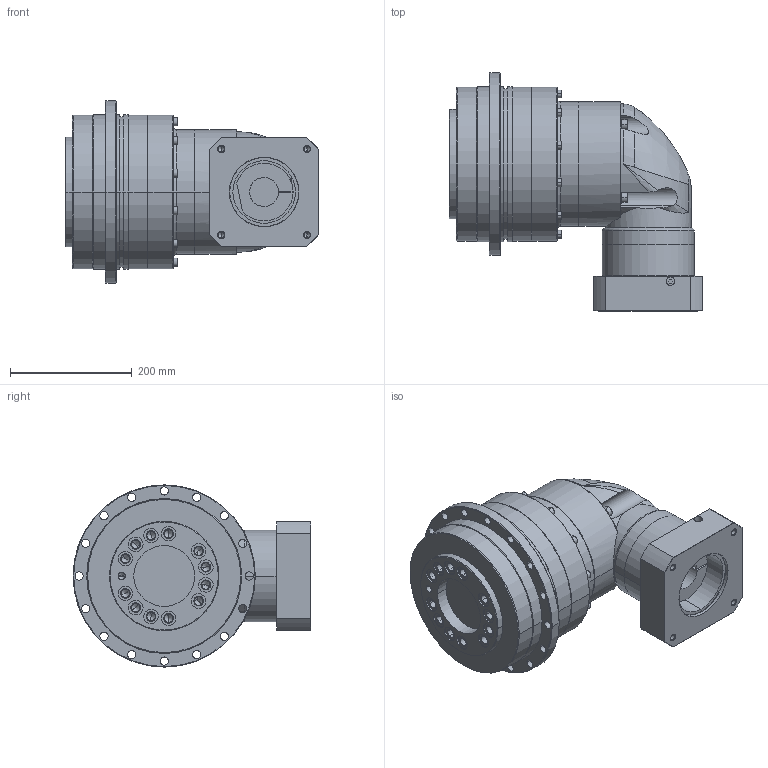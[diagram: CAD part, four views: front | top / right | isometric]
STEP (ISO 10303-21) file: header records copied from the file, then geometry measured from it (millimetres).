
FILE_DESCRIPTION((''),'2;1');
FILE_NAME('ADR2552-P4160201_ASM','2006-04-21T',('D00036'),(''),'PRO/ENGINEER BY PARAMETRIC TECHNOLOGY CORPORATION, 2001280','PRO/ENGINEER BY PARAMETRIC TECHNOLOGY CORPORATION, 2001280','');
FILE_SCHEMA(('CONFIG_CONTROL_DESIGN'));
Length unit declared in the file: millimetre
Products named in the file (11): AD255-2; PH270001; 220120813; AH_RING_GEAR-SET2-7_ASM; PD160001; 233100006; 220100916; HOUSING-SET-6_ASM; PK860001; P4160201; ADR2552-P4160201_ASM
Assembly tree (27 placements, depth 3):
  ADR2552-P4160201_ASM
    AD255-2
    AH_RING_GEAR-SET2-7_ASM
      PH270001
      220120813  x12
    HOUSING-SET-6_ASM
      PD160001
      233100006  x4
      220100916  x4
    PK860001
    P4160201
Bounding box: 417.5 x 391.5 x 300 mm (x, y, z)
Volume: 16771114.7 mm3; surface area: 950463.5 mm2
Topology: 25 solids, 69 shells, 1184 faces, 2686 edges, 1613 vertices
Faces by surface type: cylinder 520, plane 379, cone 210, torus 57, bspline 18
Entity records: 22048 total; most frequent: CARTESIAN_POINT 4686, DIRECTION 3997, ORIENTED_EDGE 3092, AXIS2_PLACEMENT_3D 1678, EDGE_CURVE 1634, VERTEX_POINT 1057, EDGE_LOOP 915, CIRCLE 908
